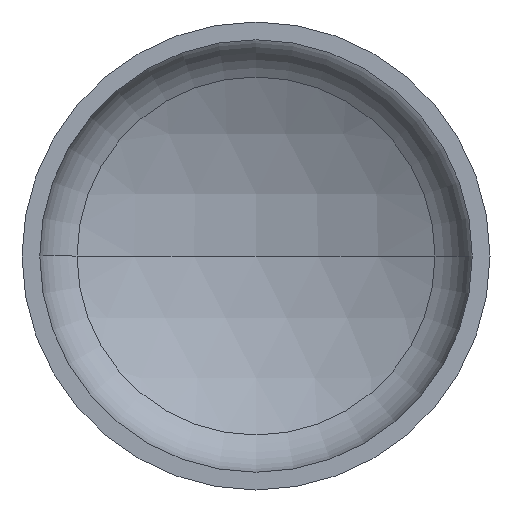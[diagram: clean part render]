
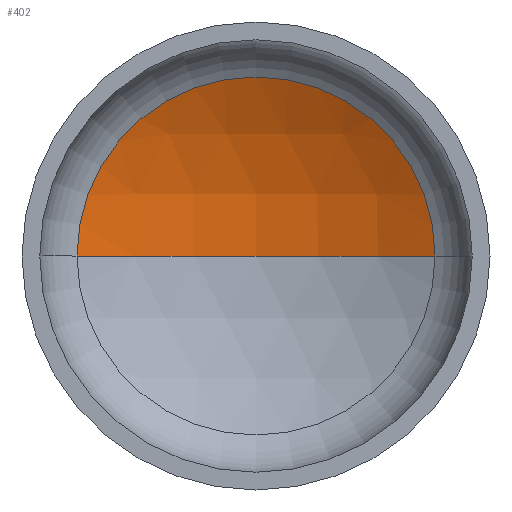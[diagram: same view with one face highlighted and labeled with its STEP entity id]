
A CAD part, front view. The second image highlights one B-rep face of the part: STEP entity #402.
In plain terms, the highlighted spherical face has radius 1520 mm.
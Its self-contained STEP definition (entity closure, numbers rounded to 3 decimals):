
#10 = EDGE_LOOP ( 'NONE', ( #70, #91, #62 ) ) ;
#13 = VERTEX_POINT ( 'NONE', #289 ) ;
#14 = CARTESIAN_POINT ( 'NONE',  ( 0., 374.717, 0. ) ) ;
#32 = DIRECTION ( 'NONE',  ( 0., -1., 0. ) ) ;
#33 = AXIS2_PLACEMENT_3D ( 'NONE', #144, #113, #145 ) ;
#62 = ORIENTED_EDGE ( 'NONE', *, *, #189, .T. ) ;
#68 = VERTEX_POINT ( 'NONE', #244 ) ;
#70 = ORIENTED_EDGE ( 'NONE', *, *, #373, .F. ) ;
#91 = ORIENTED_EDGE ( 'NONE', *, *, #193, .T. ) ;
#102 = VERTEX_POINT ( 'NONE', #239 ) ;
#113 = DIRECTION ( 'NONE',  ( 0., 0., 1. ) ) ;
#115 = DIRECTION ( 'NONE',  ( -1., 0., 0. ) ) ;
#123 = SPHERICAL_SURFACE ( 'NONE', #274, 1520. ) ;
#124 = AXIS2_PLACEMENT_3D ( 'NONE', #235, #229, #232 ) ;
#129 = AXIS2_PLACEMENT_3D ( 'NONE', #14, #32, #296 ) ;
#136 = CARTESIAN_POINT ( 'NONE',  ( 0., -960.35, 0. ) ) ;
#144 = CARTESIAN_POINT ( 'NONE',  ( 0., -960.35, 0. ) ) ;
#145 = DIRECTION ( 'NONE',  ( 1., 0., 0. ) ) ;
#149 = CIRCLE ( 'NONE', #33, 1520. ) ;
#174 = DIRECTION ( 'NONE',  ( 0., 0., -1. ) ) ;
#189 = EDGE_CURVE ( 'NONE', #102, #13, #196, .T. ) ;
#193 = EDGE_CURVE ( 'NONE', #68, #102, #321, .T. ) ;
#196 = CIRCLE ( 'NONE', #129, 726.634 ) ;
#229 = DIRECTION ( 'NONE',  ( 0., 0., -1. ) ) ;
#232 = DIRECTION ( 'NONE',  ( -1., 0., 0. ) ) ;
#235 = CARTESIAN_POINT ( 'NONE',  ( 0., -960.35, 0. ) ) ;
#239 = CARTESIAN_POINT ( 'NONE',  ( 726.634, 374.717, 0. ) ) ;
#244 = CARTESIAN_POINT ( 'NONE',  ( 0., 559.65, 0. ) ) ;
#274 = AXIS2_PLACEMENT_3D ( 'NONE', #136, #174, #115 ) ;
#289 = CARTESIAN_POINT ( 'NONE',  ( -726.634, 374.717, 0. ) ) ;
#296 = DIRECTION ( 'NONE',  ( 1., 0., 0. ) ) ;
#321 = CIRCLE ( 'NONE', #124, 1520. ) ;
#373 = EDGE_CURVE ( 'NONE', #68, #13, #149, .T. ) ;
#391 = FACE_OUTER_BOUND ( 'NONE', #10, .T. ) ;
#402 = ADVANCED_FACE ( 'NONE', ( #391 ), #123, .F. ) ;
